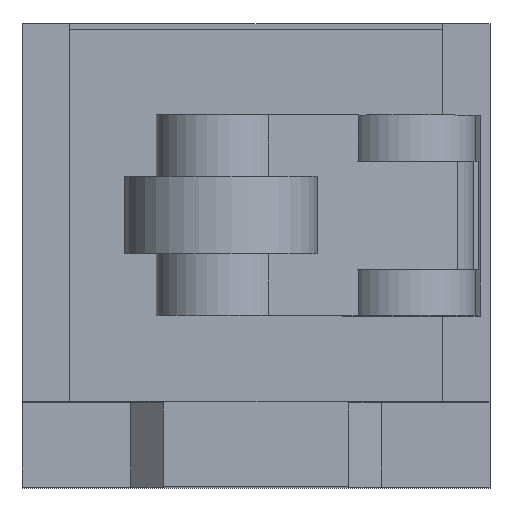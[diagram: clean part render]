
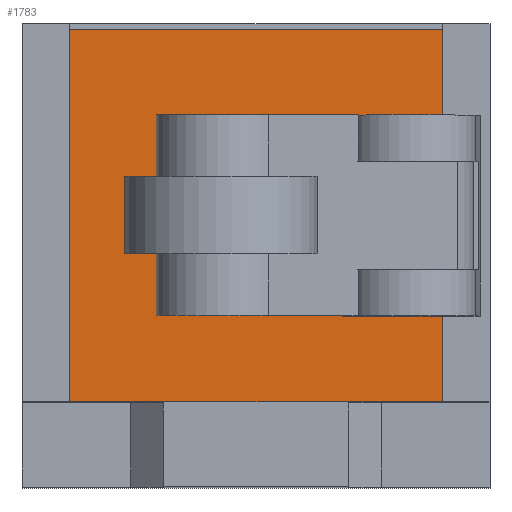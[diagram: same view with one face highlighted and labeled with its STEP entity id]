
A CAD part, top view. The second image highlights one B-rep face of the part: STEP entity #1783.
In plain terms, the highlighted planar face has unit normal (0, 0, 1).
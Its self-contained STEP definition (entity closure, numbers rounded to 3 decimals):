
#1305=CARTESIAN_POINT('',(5.605,6.05,67.));
#1306=VERTEX_POINT('',#1305);
#1348=CARTESIAN_POINT('',(5.605,-0.95,67.));
#1349=VERTEX_POINT('',#1348);
#1363=CARTESIAN_POINT('',(5.605,-0.95,67.));
#1364=DIRECTION('',(0.0,1.0,0.0));
#1365=VECTOR('',#1364,7.);
#1366=LINE('',#1363,#1365);
#1367=EDGE_CURVE('',#1349,#1306,#1366,.T.);
#1475=CARTESIAN_POINT('',(5.605,9.05,67.));
#1476=VERTEX_POINT('',#1475);
#1483=CARTESIAN_POINT('',(5.605,6.05,67.));
#1484=DIRECTION('',(0.0,1.0,0.0));
#1485=VECTOR('',#1484,3.);
#1486=LINE('',#1483,#1485);
#1487=EDGE_CURVE('',#1306,#1476,#1486,.T.);
#1498=CARTESIAN_POINT('',(5.605,-3.95,67.));
#1499=VERTEX_POINT('',#1498);
#1500=CARTESIAN_POINT('',(5.605,-3.95,67.));
#1501=DIRECTION('',(0.0,1.0,0.0));
#1502=VECTOR('',#1501,3.);
#1503=LINE('',#1500,#1502);
#1504=EDGE_CURVE('',#1499,#1349,#1503,.T.);
#1532=CARTESIAN_POINT('',(4.0,2.55,67.));
#1533=VERTEX_POINT('',#1532);
#1534=CARTESIAN_POINT('',(0.0,2.55,67.));
#1535=DIRECTION('',(0.0,0.0,-1.0));
#1536=DIRECTION('',(-1.0,0.0,0.0));
#1537=AXIS2_PLACEMENT_3D('',#1534,#1535,#1536);
#1538=CIRCLE('',#1537,4.0);
#1539=EDGE_CURVE('',#1533,#1533,#1538,.T.);
#1589=CARTESIAN_POINT('',(12.05,9.05,67.));
#1590=VERTEX_POINT('',#1589);
#1597=CARTESIAN_POINT('',(5.605,9.05,67.));
#1598=DIRECTION('',(1.0,0.0,0.0));
#1599=VECTOR('',#1598,6.445);
#1600=LINE('',#1597,#1599);
#1601=EDGE_CURVE('',#1476,#1590,#1600,.T.);
#1708=CARTESIAN_POINT('',(12.05,-3.95,67.));
#1709=VERTEX_POINT('',#1708);
#1710=CARTESIAN_POINT('',(12.05,-3.95,67.));
#1711=DIRECTION('',(-1.0,0.0,0.0));
#1712=VECTOR('',#1711,6.445);
#1713=LINE('',#1710,#1712);
#1714=EDGE_CURVE('',#1709,#1499,#1713,.T.);
#1730=CARTESIAN_POINT('',(0.,2.55,67.));
#1731=DIRECTION('',(0.0,0.0,1.0));
#1732=DIRECTION('',(1.0,0.0,0.0));
#1733=AXIS2_PLACEMENT_3D('',#1730,#1731,#1732);
#1734=PLANE('',#1733);
#1735=ORIENTED_EDGE('',*,*,#1714,.T.);
#1736=ORIENTED_EDGE('',*,*,#1504,.T.);
#1737=ORIENTED_EDGE('',*,*,#1367,.T.);
#1738=ORIENTED_EDGE('',*,*,#1487,.T.);
#1739=ORIENTED_EDGE('',*,*,#1601,.T.);
#1740=CARTESIAN_POINT('',(12.05,14.6,67.));
#1741=VERTEX_POINT('',#1740);
#1742=CARTESIAN_POINT('',(12.05,14.6,67.0));
#1743=DIRECTION('',(0.0,-1.0,0.0));
#1744=VECTOR('',#1743,5.55);
#1745=LINE('',#1742,#1744);
#1746=EDGE_CURVE('',#1741,#1590,#1745,.T.);
#1747=ORIENTED_EDGE('',*,*,#1746,.F.);
#1748=CARTESIAN_POINT('',(-12.05,14.6,67.));
#1749=VERTEX_POINT('',#1748);
#1750=CARTESIAN_POINT('',(-12.05,14.6,67.0));
#1751=DIRECTION('',(1.0,0.0,0.0));
#1752=VECTOR('',#1751,24.1);
#1753=LINE('',#1750,#1752);
#1754=EDGE_CURVE('',#1749,#1741,#1753,.T.);
#1755=ORIENTED_EDGE('',*,*,#1754,.F.);
#1756=CARTESIAN_POINT('',(-12.05,-9.5,67.));
#1757=VERTEX_POINT('',#1756);
#1758=CARTESIAN_POINT('',(-12.05,-9.5,67.0));
#1759=DIRECTION('',(0.0,1.0,0.0));
#1760=VECTOR('',#1759,24.1);
#1761=LINE('',#1758,#1760);
#1762=EDGE_CURVE('',#1757,#1749,#1761,.T.);
#1763=ORIENTED_EDGE('',*,*,#1762,.F.);
#1764=CARTESIAN_POINT('',(12.05,-9.5,67.));
#1765=VERTEX_POINT('',#1764);
#1766=CARTESIAN_POINT('',(12.05,-9.5,67.0));
#1767=DIRECTION('',(-1.0,0.0,0.0));
#1768=VECTOR('',#1767,24.1);
#1769=LINE('',#1766,#1768);
#1770=EDGE_CURVE('',#1765,#1757,#1769,.T.);
#1771=ORIENTED_EDGE('',*,*,#1770,.F.);
#1772=CARTESIAN_POINT('',(12.05,-3.95,67.0));
#1773=DIRECTION('',(0.0,-1.0,0.0));
#1774=VECTOR('',#1773,5.55);
#1775=LINE('',#1772,#1774);
#1776=EDGE_CURVE('',#1709,#1765,#1775,.T.);
#1777=ORIENTED_EDGE('',*,*,#1776,.F.);
#1778=EDGE_LOOP('',(#1735,#1736,#1737,#1738,#1739,#1747,#1755,#1763,#1771,#1777));
#1779=FACE_OUTER_BOUND('',#1778,.T.);
#1780=ORIENTED_EDGE('',*,*,#1539,.T.);
#1781=EDGE_LOOP('',(#1780));
#1782=FACE_BOUND('',#1781,.T.);
#1783=ADVANCED_FACE('',(#1779,#1782),#1734,.T.);
